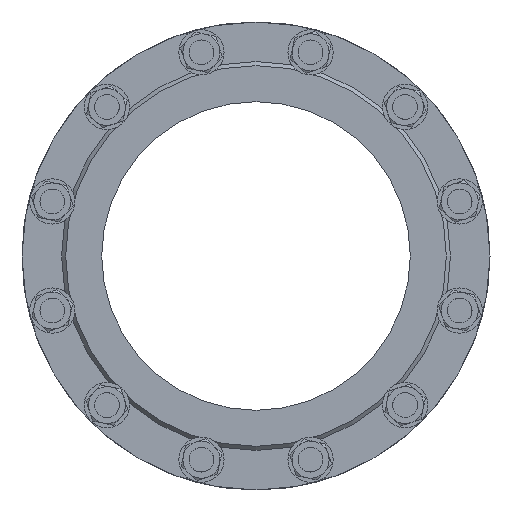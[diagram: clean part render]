
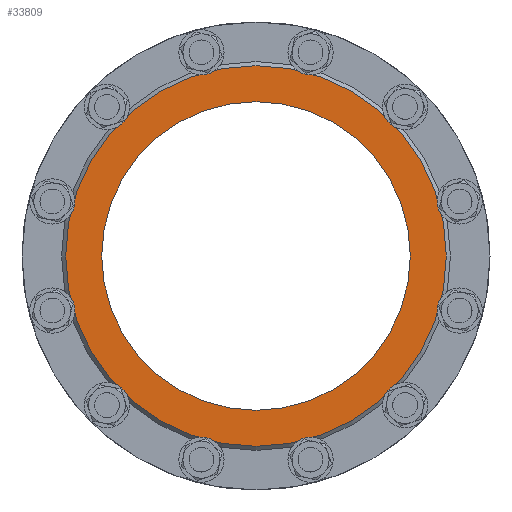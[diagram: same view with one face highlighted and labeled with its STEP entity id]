
A CAD part, left-side view. The second image highlights one B-rep face of the part: STEP entity #33809.
In plain terms, the highlighted planar face has unit normal (-1, 0, 0).
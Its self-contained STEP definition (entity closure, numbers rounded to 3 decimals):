
#1260 = ORIENTED_EDGE ( 'NONE', *, *, #41466, .T. ) ;
#2694 = CARTESIAN_POINT ( 'NONE',  ( -65., 0., 150. ) ) ;
#4822 = CARTESIAN_POINT ( 'NONE',  ( -65., -185., 0. ) ) ;
#5193 = PLANE ( 'NONE',  #15374 ) ;
#7727 = ORIENTED_EDGE ( 'NONE', *, *, #37941, .T. ) ;
#8785 = FACE_BOUND ( 'NONE', #9070, .T. ) ;
#9070 = EDGE_LOOP ( 'NONE', ( #1260 ) ) ;
#9125 = CIRCLE ( 'NONE', #42920, 185. ) ;
#13045 = DIRECTION ( 'NONE',  ( 0., 1., 0. ) ) ;
#14295 = CIRCLE ( 'NONE', #34447, 150. ) ;
#15374 = AXIS2_PLACEMENT_3D ( 'NONE', #2694, #29520, #13045 ) ;
#16037 = VERTEX_POINT ( 'NONE', #22581 ) ;
#16399 = CARTESIAN_POINT ( 'NONE',  ( -65., 0., 0. ) ) ;
#20376 = CARTESIAN_POINT ( 'NONE',  ( -65., 0., 0. ) ) ;
#20847 = DIRECTION ( 'NONE',  ( 0., 0., -1. ) ) ;
#21928 = VERTEX_POINT ( 'NONE', #4822 ) ;
#22581 = CARTESIAN_POINT ( 'NONE',  ( -65., 0., -150. ) ) ;
#23191 = EDGE_LOOP ( 'NONE', ( #7727 ) ) ;
#29520 = DIRECTION ( 'NONE',  ( 1., 0., 0. ) ) ;
#33809 = ADVANCED_FACE ( 'NONE', ( #8785, #36470 ), #5193, .F. ) ;
#34119 = DIRECTION ( 'NONE',  ( 1., 0., 0. ) ) ;
#34447 = AXIS2_PLACEMENT_3D ( 'NONE', #20376, #34119, #20847 ) ;
#36470 = FACE_OUTER_BOUND ( 'NONE', #23191, .T. ) ;
#37941 = EDGE_CURVE ( 'NONE', #21928, #21928, #9125, .T. ) ;
#40044 = DIRECTION ( 'NONE',  ( -1., 0., 0. ) ) ;
#41466 = EDGE_CURVE ( 'NONE', #16037, #16037, #14295, .T. ) ;
#42920 = AXIS2_PLACEMENT_3D ( 'NONE', #16399, #40044, #43834 ) ;
#43834 = DIRECTION ( 'NONE',  ( 0., -1., 0. ) ) ;
